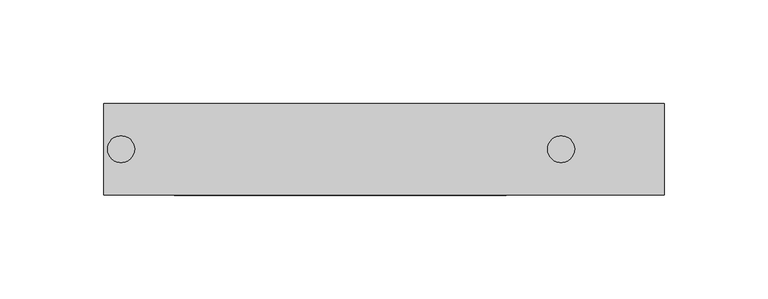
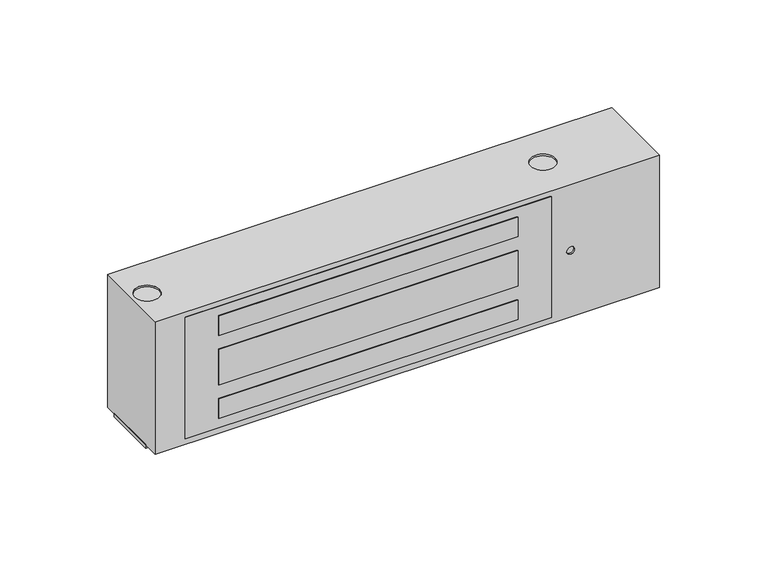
"""IFC4 building model written with IfcOpenShell, lengths in millimetres: proxy geometry, Электромагнитный_замок_ML-194K-2_без_электроники_с_уголком_AccordTec_R19 : Электромагнитный_замок_ML-194K-2_без_электроники_с_уголком_AccordTec_R19."""

from ifc_helpers import new_model, si_unit, point, frame, frame_2d, origin, place, context, project, spatial, polyline, circle_curve, trimmed, segment, composite_curve, outline, extrude, source, transform, mapped, element, save
from ifc_brep_helpers import plane_surface, revolved_surface, advanced_brep


def generic_models_4a27e445(model_context):
    return source(origin(), model_context, "Body", "SolidModel", [
        extrude(outline(polyline([(194.0, -0.2), (34.0, -0.2), (34.0, 1.0), (194.0, 1.0), (194.0, -0.2)])), frame((0.0, 0.0, 55.5), z_axis=(0.0, 0.0, 1.0), x_axis=(1.0, 0.0, 0.0)), (0.0, 0.0, 1.0), 11.0),
        extrude(outline(polyline([(194.0, -0.2), (34.0, -0.2), (34.0, 1.0), (194.0, 1.0), (194.0, -0.2)])), frame((0.0, 0.0, 27.5), z_axis=(0.0, 0.0, 1.0), x_axis=(1.0, 0.0, 0.0)), (0.0, 0.0, 1.0), 20.0),
        extrude(outline(polyline([(194.0, -0.2), (34.0, -0.2), (34.0, 1.0), (194.0, 1.0), (194.0, -0.2)])), frame((0.0, 0.0, 8.5), z_axis=(0.0, 0.0, 1.0), x_axis=(1.0, 0.0, 0.0)), (0.0, 0.0, 1.0), 11.0),
        extrude(outline(polyline([(71.8, 212.0), (71.8, 16.0), (3.2, 16.0), (3.2, 212.0), (71.8, 212.0)]), holes=[polyline([(66.5, 34.0), (66.5, 194.0), (55.5, 194.0), (55.5, 34.0), (66.5, 34.0)]), polyline([(47.5, 34.0), (47.5, 194.0), (27.5, 194.0), (27.5, 34.0), (47.5, 34.0)]), polyline([(19.5, 34.0), (19.5, 194.0), (8.5, 194.0), (8.5, 34.0), (19.5, 34.0)])]), frame((0.0, 0.0, 0.0), z_axis=(0.0, 1.0, 0.0), x_axis=(0.0, 0.0, 1.0)), (0.0, 0.0, 1.0), 1.0),
        extrude(outline(polyline([(29.0, 38.0), (29.0, 9.0), (0.0, 9.0), (0.0, 38.0), (29.0, 38.0)]), holes=[composite_curve([segment(trimmed(circle_curve(frame_2d((8.3, 22.0)), 3.0), [point((5.3, 22.0))], [point((11.3, 22.0))], True, "CARTESIAN"), True, "CONTINUOUS"), segment(trimmed(circle_curve(frame_2d((8.3, 22.0)), 3.0), [point((11.3, 22.0))], [point((5.3, 22.0))], True, "CARTESIAN"), True, "CONTINUOUS")], self_intersect=False)]), frame((0.0, 0.0, -2.0), z_axis=(0.0, 0.0, 1.0), x_axis=(1.0, 0.0, 0.0)), (0.0, 0.0, 1.0), 2.0),
        extrude(outline(polyline([(205.8, 38.0), (234.8, 38.0), (234.8, 9.0), (205.8, 9.0), (205.8, 38.0)]), holes=[composite_curve([segment(trimmed(circle_curve(frame_2d((220.3, 22.0)), 3.0), [point((217.3, 22.0))], [point((223.3, 22.0))], True, "CARTESIAN"), True, "CONTINUOUS"), segment(trimmed(circle_curve(frame_2d((220.3, 22.0)), 3.0), [point((223.3, 22.0))], [point((217.3, 22.0))], True, "CARTESIAN"), True, "CONTINUOUS")], self_intersect=False)]), frame((0.0, 0.0, -2.0), z_axis=(0.0, 0.0, 1.0), x_axis=(1.0, 0.0, 0.0)), (0.0, 0.0, 1.0), 2.0),
        advanced_brep(
        [(270.0, 44.0, 75.0), (0.0, 44.0, 75.0), (0.0, 0.0, 75.0), (270.0, 0.0, 75.0), (213.8, 22.0, 75.0), (226.8, 22.0, 75.0), (1.8, 22.0, 75.0), (14.8, 22.0, 75.0), (270.0, 44.0, 0.0), (270.0, 0.0, 0.0), (0.0, 0.0, 0.0), (0.0, 44.0, 0.0), (242.65, 22.0, 0.0), (249.65, 22.0, 0.0), (252.0, 44.0, 44.5), (246.0, 44.0, 44.5), (16.0, 0.0, 71.8), (212.0, 0.0, 71.8), (212.0, 0.0, 3.2), (16.0, 0.0, 3.2), (224.5, 0.0, 37.55), (220.5, 0.0, 37.55), (242.65, 22.0, 1.0), (249.65, 22.0, 1.0), (212.0, 1.0, 71.8), (16.0, 1.0, 71.8), (16.0, 1.0, 3.2), (212.0, 1.0, 3.2), (220.5, 1.0, 37.55), (224.5, 1.0, 37.55), (252.0, 43.0, 44.5), (246.0, 43.0, 44.5), (213.8, 22.0, 74.0), (226.8, 22.0, 74.0), (1.8, 22.0, 74.0), (14.8, 22.0, 74.0)],
        [
            (0, 1),
            (1, 2),
            (2, 3),
            (3, 0),
            (4, 5, circle_curve(frame((220.3, 22.0, 75.0), z_axis=(0.0, 0.0, -1.0), x_axis=(1.0, 0.0, 0.0)), 6.5)),
            (5, 4, circle_curve(frame((220.3, 22.0, 75.0), z_axis=(0.0, 0.0, -1.0), x_axis=(1.0, 0.0, 0.0)), 6.5)),
            (6, 7, circle_curve(frame((8.3, 22.0, 75.0), z_axis=(0.0, 0.0, -1.0), x_axis=(1.0, 0.0, 0.0)), 6.5)),
            (7, 6, circle_curve(frame((8.3, 22.0, 75.0), z_axis=(0.0, 0.0, -1.0), x_axis=(1.0, 0.0, 0.0)), 6.5)),
            (8, 9),
            (9, 10),
            (10, 11),
            (11, 8),
            (12, 13, circle_curve(frame((246.15, 22.0, 0.0), z_axis=(0.0, 0.0, 1.0), x_axis=(1.0, 0.0, 0.0)), 3.5)),
            (13, 12, circle_curve(frame((246.15, 22.0, 0.0), z_axis=(0.0, 0.0, 1.0), x_axis=(1.0, 0.0, 0.0)), 3.5)),
            (0, 8),
            (11, 1),
            (14, 15, circle_curve(frame((249.0, 44.0, 44.5), z_axis=(0.0, -1.0, 0.0), x_axis=(-1.0, 0.0, 0.0)), 3.0)),
            (15, 14, circle_curve(frame((249.0, 44.0, 44.5), z_axis=(0.0, -1.0, 0.0), x_axis=(-1.0, 0.0, 0.0)), 3.0)),
            (10, 2),
            (9, 3),
            (16, 17),
            (17, 18),
            (18, 19),
            (19, 16),
            (20, 21, circle_curve(frame((222.5, 0.0, 37.55), z_axis=(0.0, 1.0, 0.0), x_axis=(1.0, 0.0, 0.0)), 2.0)),
            (21, 20, circle_curve(frame((222.5, 0.0, 37.55), z_axis=(0.0, 1.0, 0.0), x_axis=(1.0, 0.0, 0.0)), 2.0)),
            (22, 23, circle_curve(frame((246.15, 22.0, 1.0), z_axis=(0.0, 0.0, -1.0), x_axis=(1.0, 0.0, 0.0)), 3.5)),
            (23, 22, circle_curve(frame((246.15, 22.0, 1.0), z_axis=(0.0, 0.0, -1.0), x_axis=(1.0, 0.0, 0.0)), 3.5)),
            (23, 13),
            (12, 22),
            (24, 25),
            (25, 26),
            (26, 27),
            (27, 24),
            (24, 17),
            (16, 25),
            (19, 26),
            (18, 27),
            (28, 29, circle_curve(frame((222.5, 1.0, 37.55), z_axis=(0.0, -1.0, 0.0), x_axis=(1.0, 0.0, 0.0)), 2.0)),
            (29, 28, circle_curve(frame((222.5, 1.0, 37.55), z_axis=(0.0, -1.0, 0.0), x_axis=(1.0, 0.0, 0.0)), 2.0)),
            (28, 21),
            (20, 29),
            (30, 31, circle_curve(frame((249.0, 43.0, 44.5), z_axis=(0.0, 1.0, 0.0), x_axis=(-1.0, 0.0, 0.0)), 3.0)),
            (31, 30, circle_curve(frame((249.0, 43.0, 44.5), z_axis=(0.0, 1.0, 0.0), x_axis=(-1.0, 0.0, 0.0)), 3.0)),
            (31, 15),
            (14, 30),
            (32, 33, circle_curve(frame((220.3, 22.0, 74.0), z_axis=(0.0, 0.0, 1.0), x_axis=(1.0, 0.0, 0.0)), 6.5)),
            (33, 32, circle_curve(frame((220.3, 22.0, 74.0), z_axis=(0.0, 0.0, 1.0), x_axis=(1.0, 0.0, 0.0)), 6.5)),
            (34, 35, circle_curve(frame((8.3, 22.0, 74.0), z_axis=(0.0, 0.0, 1.0), x_axis=(1.0, 0.0, 0.0)), 6.5)),
            (35, 34, circle_curve(frame((8.3, 22.0, 74.0), z_axis=(0.0, 0.0, 1.0), x_axis=(1.0, 0.0, 0.0)), 6.5)),
            (33, 5),
            (4, 32),
            (35, 7),
            (6, 34),
        ],
        [
            plane_surface(frame((0.0, 44.0, 75.0), z_axis=(0.0, 0.0, 1.0), x_axis=(-1.0, 0.0, 0.0))),
            plane_surface(frame((0.0, 44.0, 0.0), z_axis=(0.0, 0.0, -1.0), x_axis=(1.0, 0.0, 0.0))),
            plane_surface(frame((270.0, 44.0, 75.0), z_axis=(0.0, 1.0, 0.0), x_axis=(0.0, 0.0, -1.0))),
            plane_surface(frame((0.0, 44.0, 75.0), z_axis=(-1.0, 0.0, 0.0), x_axis=(0.0, 0.0, -1.0))),
            plane_surface(frame((0.0, 0.0, 75.0), z_axis=(0.0, -1.0, 0.0), x_axis=(0.0, 0.0, -1.0))),
            plane_surface(frame((270.0, 0.0, 75.0), z_axis=(1.0, 0.0, 0.0), x_axis=(0.0, 0.0, -1.0))),
            plane_surface(frame((249.65, 22.0, 1.0), z_axis=(0.0, 0.0, -1.0), x_axis=(0.0, 1.0, 0.0))),
            revolved_surface(polyline([(249.65, 22.0, 1.0), (249.65, 22.0, 0.0)]), (246.15, 22.0, -1.0), (0.0, 0.0, 1.0)),
            plane_surface(frame((16.0, 1.0, 71.8), z_axis=(0.0, -1.0, 0.0), x_axis=(1.0, 0.0, 0.0))),
            plane_surface(frame((212.0, -1.0, 71.8), z_axis=(0.0, 0.0, -1.0), x_axis=(0.0, 1.0, 0.0))),
            plane_surface(frame((16.0, -1.0, 71.8), z_axis=(1.0, 0.0, 0.0), x_axis=(0.0, 1.0, 0.0))),
            plane_surface(frame((16.0, -1.0, 3.2), z_axis=(0.0, 0.0, 1.0), x_axis=(0.0, 1.0, 0.0))),
            plane_surface(frame((212.0, -1.0, 3.2), z_axis=(-1.0, 0.0, 0.0), x_axis=(0.0, 1.0, 0.0))),
            plane_surface(frame((224.5, 1.0, 37.55), z_axis=(0.0, -1.0, 0.0), x_axis=(0.0, 0.0, -1.0))),
            revolved_surface(polyline([(224.5, 0.0, 37.55), (224.5, 1.0, 37.55)]), (222.5, 1.0, 37.55), (0.0, -1.0, 0.0)),
            plane_surface(frame((246.0, 43.0, 44.5), z_axis=(0.0, 1.0, 0.0), x_axis=(0.0, 0.0, -1.0))),
            revolved_surface(polyline([(246.0, 43.0, 44.5), (246.0, 44.0, 44.5)]), (249.0, 45.0, 44.5), (0.0, -1.0, 0.0)),
            plane_surface(frame((226.8, 22.0, 74.0), z_axis=(0.0, 0.0, 1.0), x_axis=(0.0, -1.0, 0.0))),
            revolved_surface(polyline([(226.8, 22.0, 74.0), (226.8, 22.0, 75.0)]), (220.3, 22.0, 76.0), (0.0, 0.0, -1.0)),
            revolved_surface(polyline([(14.8, 22.0, 74.0), (14.8, 22.0, 75.0)]), (8.3, 22.0, 75.0), (0.0, 0.0, -1.0)),
        ],
        [
            (0, [[1, 2, 3, 4], [5, 6], [7, 8]]),
            (1, [[9, 10, 11, 12], [13, 14]]),
            (2, [[-1, 15, -12, 16], [17, 18]]),
            (3, [[-2, -16, -11, 19]]),
            (4, [[-3, -19, -10, 20], [21, 22, 23, 24], [25, 26]]),
            (5, [[-4, -20, -9, -15]]),
            (6, [[27, 28]]),
            (7, [[-28, 29, -13, 30]]),
            (7, [[-27, -30, -14, -29]]),
            (8, [[31, 32, 33, 34]]),
            (9, [[-31, 35, -21, 36]]),
            (10, [[-32, -36, -24, 37]]),
            (11, [[-33, -37, -23, 38]]),
            (12, [[-34, -38, -22, -35]]),
            (13, [[39, 40]]),
            (14, [[-39, 41, -25, 42]]),
            (14, [[-40, -42, -26, -41]]),
            (15, [[43, 44]]),
            (16, [[-44, 45, -17, 46]]),
            (16, [[-43, -46, -18, -45]]),
            (17, [[47, 48]]),
            (17, [[49, 50]]),
            (18, [[-48, 51, -5, 52]]),
            (18, [[-47, -52, -6, -51]]),
            (19, [[-50, 53, -7, 54]]),
            (19, [[-49, -54, -8, -53]]),
        ],
    ),
    ])


if __name__ == "__main__":
    model = new_model("IFC4")
    model_context = context("Model", 3, world=origin())
    ifc_project = project(units=[si_unit("LENGTHUNIT", "METRE", prefix="MILLI")], contexts=[model_context])
    site = spatial("IfcSite", under=ifc_project)
    building = spatial("IfcBuilding", under=site)
    placement = place(None, origin())
    generic_models_shape = generic_models_4a27e445(model_context)
    element("IfcBuildingElementProxy", 1, Name="Электромагнитный_замок_ML-194K-2_без_электроники_с_уголком_AccordTec_R19 : Электромагнитный_замок_ML-194K-2_без_электроники_с_уголком_AccordTec_R19", ObjectType="Электромагнитный_замок_ML-194K-2_без_электроники_с_уголком_AccordTec_R19 : Электромагнитный_замок_ML-194K-2_без_электроники_с_уголком_AccordTec_R19", at=placement, inside=building, context=model_context, shape_type="MappedRepresentation", body=[
        mapped(generic_models_shape, transform((0.0, 0.0, 0.0), x_axis=(1.0, 0.0, 0.0), y_axis=(0.0, 1.0, 0.0), z_axis=(0.0, 0.0, 1.0))),
    ])
    save(model, "model.ifc")
